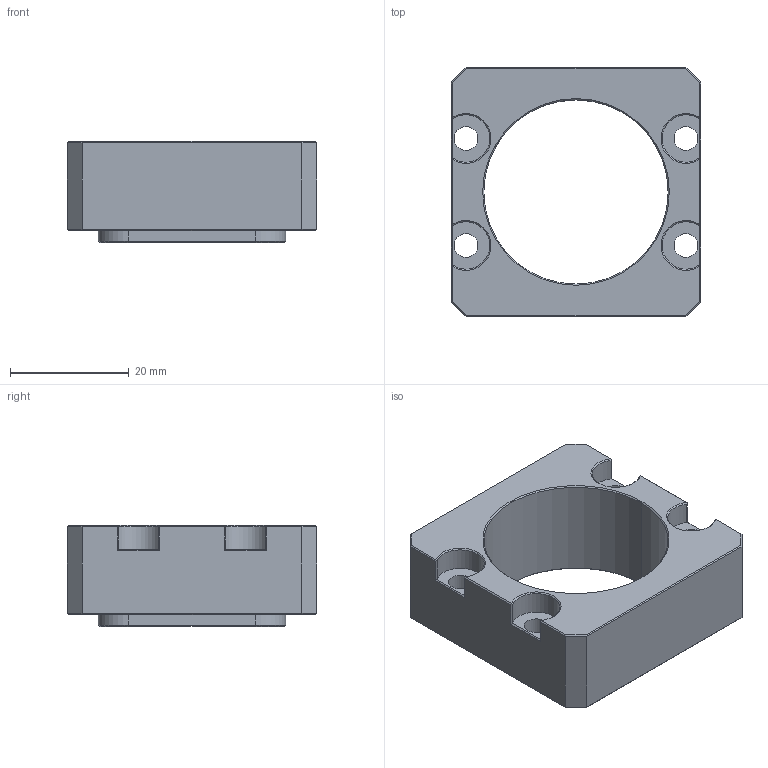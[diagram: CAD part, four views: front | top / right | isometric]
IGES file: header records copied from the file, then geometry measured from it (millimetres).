
Start section:  PTC IGES file: PI46.igs
Global section: file name: PI46.igs; native system: Pro/ENGINEER by Parametric Technology Corporation; preprocessor: 2009440; author: Owner; organization: Unknown; date: 20170526.153117; units: millimetre
Bounding box: 42 x 42 x 17 mm (x, y, z)
Surface area: 6853.4 mm2 (no closed solid volume)
Topology: 0 solids, 0 shells, 96 faces, 492 edges, 492 vertices
Faces by surface type: bspline 58, revolution 38
